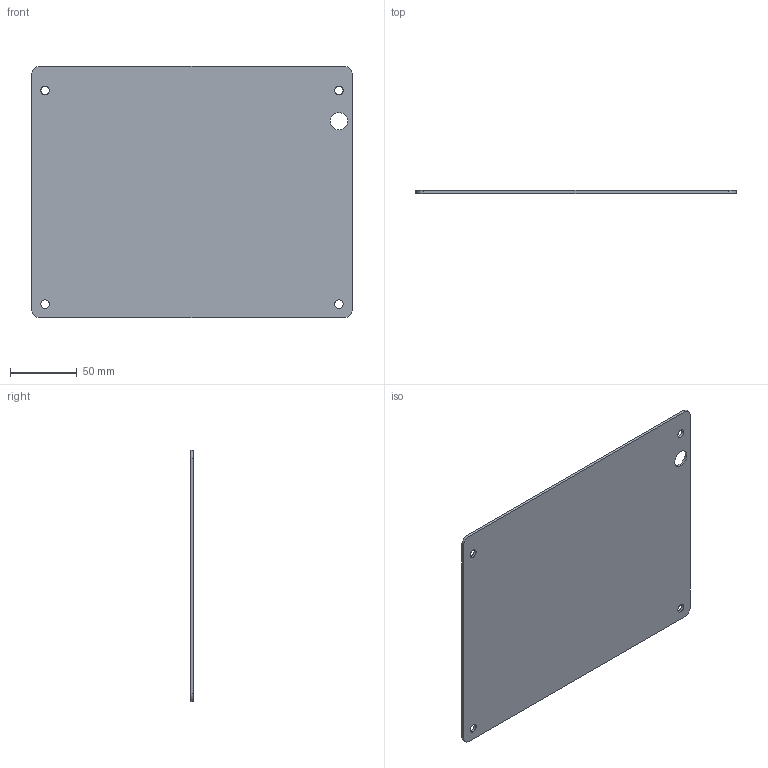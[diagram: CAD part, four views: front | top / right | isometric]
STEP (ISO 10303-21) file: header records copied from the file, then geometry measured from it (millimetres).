
FILE_DESCRIPTION (( 'STEP AP203' ), '1' );
FILE_NAME ('ORW-72.24.003 青汶篪赅.STEP', '2025-10-13T13:18:04', ( '理漯彘' ), ( '' ), 'SwSTEP 2.0', 'SolidWorks 2025', '' );
FILE_SCHEMA (( 'CONFIG_CONTROL_DESIGN' ));
Length unit declared in the file: millimetre
Products named in the file (1): ORW-72.24.003 Заглушка
Bounding box: 240 x 2 x 188 mm (x, y, z)
Volume: 89655.4 mm3; surface area: 91589.3 mm2
Topology: 1 solids, 1 shells, 15 faces, 39 edges, 26 vertices
Faces by surface type: cylinder 9, plane 6
Full cylindrical faces by diameter (mm): 6.4 x4, 13 x1
Entity records: 541 total; most frequent: DIRECTION 84, CARTESIAN_POINT 76, ORIENTED_EDGE 68, EDGE_CURVE 34, AXIS2_PLACEMENT_3D 34, EDGE_LOOP 30, VERTEX_POINT 26, FACE_OUTER_BOUND 20
